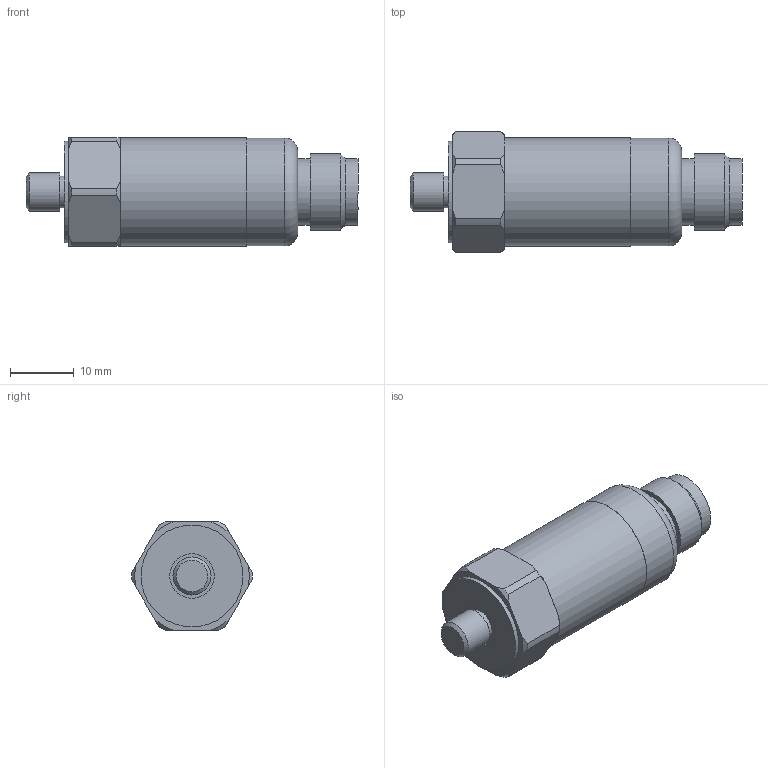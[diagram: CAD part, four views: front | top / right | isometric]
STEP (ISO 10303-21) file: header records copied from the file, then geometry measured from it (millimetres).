
FILE_DESCRIPTION(/* description */ (''),/* implementation_level */ '2;1');
FILE_NAME(/* name */ 'Z:\Engineering\Drawings\3D Library\Assemblies\Website\Premium Top\Compact\HS-170 Top M12\HS-1700105406.stp',/* time_stamp */ '2023-03-16T17:06:25+00:00',/* author */ ('Ricardo.Peneda'),/* organization */ (''),/* preprocessor_version */ 'ST-DEVELOPER v18.1',/* originating_system */ 'Autodesk Inventor 2021',/* authorisation */ '');
FILE_SCHEMA (('AUTOMOTIVE_DESIGN { 1 0 10303 214 3 1 1 }'));
Length unit declared in the file: inch
Products named in the file (1): HS-1700105406_Shrinkwrap_1
Bounding box: 52.2 x 19 x 17 mm (x, y, z)
Volume: 4463.1 mm3; surface area: 5201 mm2
Topology: 3 solids, 3 shells, 70 faces, 181 edges, 128 vertices
Faces by surface type: plane 29, cylinder 23, cone 17, torus 1
Full cylindrical faces by diameter (mm): 5 x2, 5.359 x1, 6 x1, 6.35 x1, 7 x2, 9.4 x1, 10.5 x2, 12 x1, 13.45 x1, 15.05 x1, 15.45 x1, 16 x1, 16.95 x1, 17 x1
Entity records: 2311 total; most frequent: CARTESIAN_POINT 427, DIRECTION 402, ORIENTED_EDGE 360, EDGE_CURVE 180, AXIS2_PLACEMENT_3D 175, VERTEX_POINT 128, CIRCLE 104, EDGE_LOOP 84
